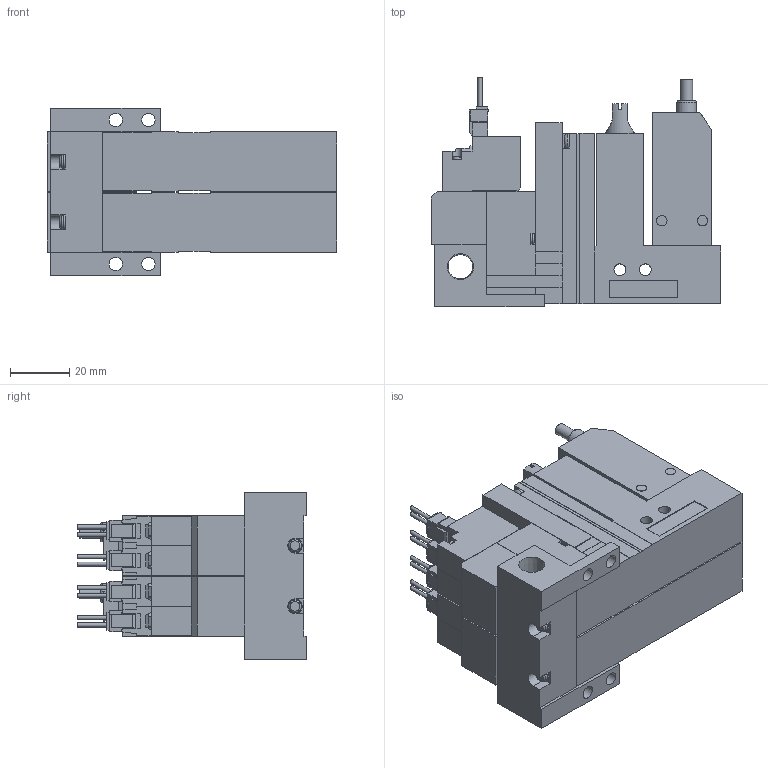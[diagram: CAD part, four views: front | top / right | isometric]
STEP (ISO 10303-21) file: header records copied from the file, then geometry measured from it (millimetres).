
FILE_DESCRIPTION(('STEP AP203'),'1');
FILE_NAME('ABS_ABPLC5BLR202.stp','2025-02-18T06:32:26',(' '),(' '),'Spatial InterOp 3D',' ',' ');
FILE_SCHEMA(('CONFIG_CONTROL_DESIGN'));
Length unit declared in the file: millimetre
Products named in the file (5): BMC22M※※※※ABS_ABPLC5BLR202; Solenoid valve B; Pressure sensor ABSLC; Unit LC; Base MR20R
Assembly tree (7 placements, depth 2):
  BMC22M※※※※ABS_ABPLC5BLR202
    Solenoid valve B  x2
    Pressure sensor ABSLC  x2
    Unit LC  x2
    Base MR20R
Bounding box: 97.6 x 77.45 x 56.5 mm (x, y, z)
Volume: 206882.5 mm3; surface area: 55220 mm2
Topology: 7 solids, 7 shells, 795 faces, 2135 edges, 1404 vertices
Faces by surface type: plane 674, cylinder 93, cone 16, torus 12
Full cylindrical faces by diameter (mm): 1.4 x8, 2.5 x2, 3 x8, 3.5 x12, 3.6 x2, 4 x6, 4.134 x2, 4.5 x4, 5.2 x2, 6 x2, 6.5 x2, 6.6 x2, 8.279 x1
Entity records: 13173 total; most frequent: CARTESIAN_POINT 2463, ORIENTED_EDGE 2124, DIRECTION 2077, EDGE_CURVE 1062, LINE 897, VECTOR 897, VERTEX_POINT 730, AXIS2_PLACEMENT_3D 590
